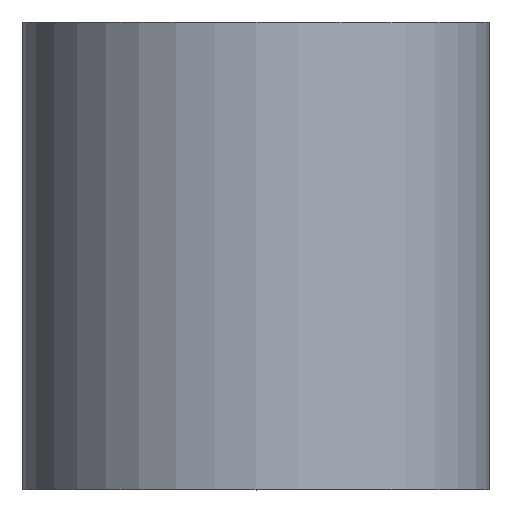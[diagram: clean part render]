
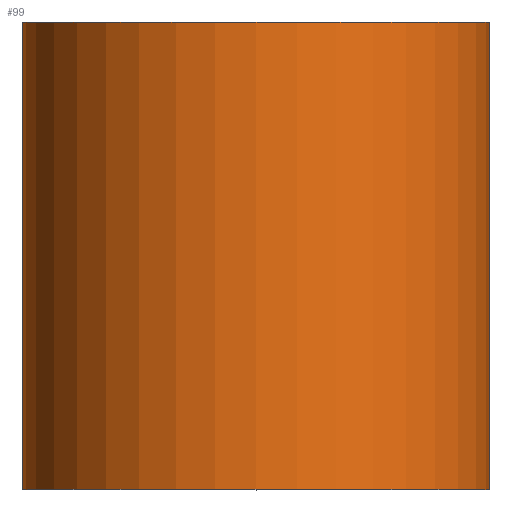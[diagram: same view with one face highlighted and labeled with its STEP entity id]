
A CAD part, top view. The second image highlights one B-rep face of the part: STEP entity #99.
In plain terms, the highlighted cylindrical face has radius 5 mm (diameter 10 mm), a partial arc.
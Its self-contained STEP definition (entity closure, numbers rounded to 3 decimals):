
#12 = CIRCLE ( 'NONE', #299, 5. ) ;
#22 = CARTESIAN_POINT ( 'NONE',  ( 5., 10., 0. ) ) ;
#24 = CARTESIAN_POINT ( 'NONE',  ( -5., 0., 0. ) ) ;
#35 = VERTEX_POINT ( 'NONE', #164 ) ;
#36 = AXIS2_PLACEMENT_3D ( 'NONE', #281, #240, #217 ) ;
#45 = CARTESIAN_POINT ( 'NONE',  ( 0., 10., 0. ) ) ;
#46 = CARTESIAN_POINT ( 'NONE',  ( -5., 10., 0. ) ) ;
#53 = CARTESIAN_POINT ( 'NONE',  ( 5., 0., 0. ) ) ;
#65 = FACE_OUTER_BOUND ( 'NONE', #157, .T. ) ;
#89 = AXIS2_PLACEMENT_3D ( 'NONE', #298, #211, #274 ) ;
#91 = DIRECTION ( 'NONE',  ( 0., 1., 0. ) ) ;
#99 = ADVANCED_FACE ( 'NONE', ( #65 ), #107, .T. ) ;
#107 = CYLINDRICAL_SURFACE ( 'NONE', #89, 5. ) ;
#112 = ORIENTED_EDGE ( 'NONE', *, *, #277, .T. ) ;
#123 = EDGE_CURVE ( 'NONE', #35, #279, #129, .T. ) ;
#129 = LINE ( 'NONE', #24, #253 ) ;
#150 = CIRCLE ( 'NONE', #36, 5. ) ;
#157 = EDGE_LOOP ( 'NONE', ( #167, #112, #205, #161 ) ) ;
#161 = ORIENTED_EDGE ( 'NONE', *, *, #123, .F. ) ;
#164 = CARTESIAN_POINT ( 'NONE',  ( -5., 0., 0. ) ) ;
#167 = ORIENTED_EDGE ( 'NONE', *, *, #235, .T. ) ;
#170 = DIRECTION ( 'NONE',  ( 0., 1., 0. ) ) ;
#184 = VECTOR ( 'NONE', #91, 1000. ) ;
#194 = CARTESIAN_POINT ( 'NONE',  ( 5., 0., 0. ) ) ;
#199 = EDGE_CURVE ( 'NONE', #279, #218, #12, .T. ) ;
#205 = ORIENTED_EDGE ( 'NONE', *, *, #199, .F. ) ;
#211 = DIRECTION ( 'NONE',  ( 0., 1., 0. ) ) ;
#217 = DIRECTION ( 'NONE',  ( -1., 0., 0. ) ) ;
#218 = VERTEX_POINT ( 'NONE', #22 ) ;
#219 = DIRECTION ( 'NONE',  ( 0., 1., 0. ) ) ;
#220 = DIRECTION ( 'NONE',  ( -1., 0., 0. ) ) ;
#235 = EDGE_CURVE ( 'NONE', #35, #291, #150, .T. ) ;
#240 = DIRECTION ( 'NONE',  ( 0., 1., 0. ) ) ;
#247 = LINE ( 'NONE', #194, #184 ) ;
#253 = VECTOR ( 'NONE', #219, 1000. ) ;
#274 = DIRECTION ( 'NONE',  ( -1., 0., 0. ) ) ;
#277 = EDGE_CURVE ( 'NONE', #291, #218, #247, .T. ) ;
#279 = VERTEX_POINT ( 'NONE', #46 ) ;
#281 = CARTESIAN_POINT ( 'NONE',  ( 0., 0., 0. ) ) ;
#291 = VERTEX_POINT ( 'NONE', #53 ) ;
#298 = CARTESIAN_POINT ( 'NONE',  ( 0., 0., 0. ) ) ;
#299 = AXIS2_PLACEMENT_3D ( 'NONE', #45, #170, #220 ) ;
